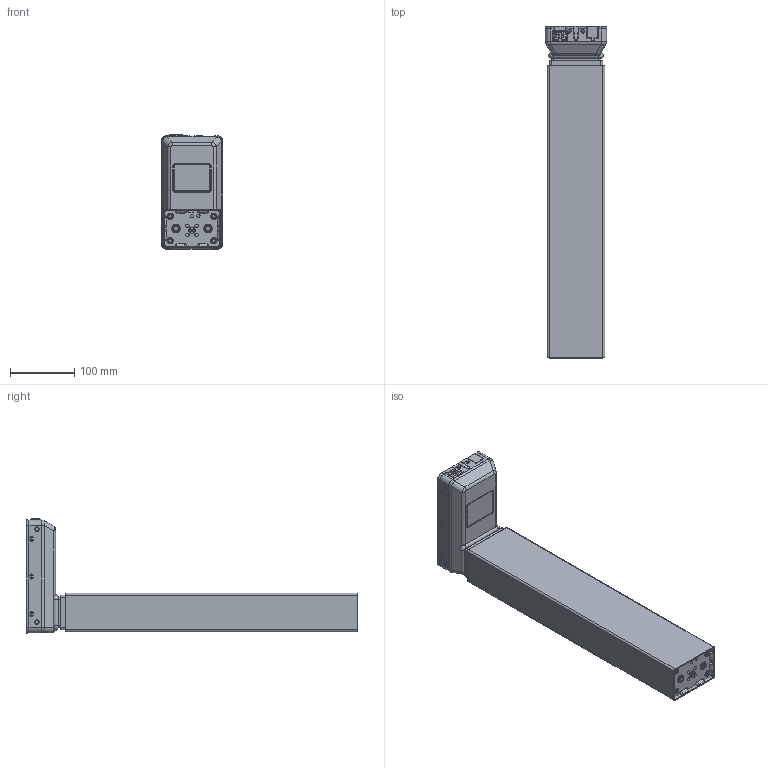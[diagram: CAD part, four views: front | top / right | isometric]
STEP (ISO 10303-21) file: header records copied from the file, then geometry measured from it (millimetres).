
FILE_DESCRIPTION((''),'2;1');
FILE_NAME('1064W8901_ASM_ASM','2020-12-21T13:32:22',('hga'),(''),'CREO PARAMETRIC BY PTC INC, 2019344','CREO PARAMETRIC BY PTC INC, 2019344','');
FILE_SCHEMA(('AUTOMOTIVE_DESIGN { 1 0 10303 214 1 1 1 1 }'));
Length unit declared in the file: millimetre
Products named in the file (8): 1064W8901-A-21-3_1_1; 1064W8901-A-21-1_1_1; 1064W8901-A-21-2_1_1; 1041W7906-A-00-1_1_1; 1064W8901-EX2_ASM_1_ASM; 4006; 4007; 1064W8901_ASM_ASM
Assembly tree (7 placements, depth 3):
  1064W8901_ASM_ASM
    1064W8901-EX2_ASM_1_ASM
      1064W8901-A-21-3_1_1
      1064W8901-A-21-1_1_1
      1064W8901-A-21-2_1_1
      1041W7906-A-00-1_1_1
    4006
    4007
Bounding box: 96.5 x 518 x 178.6 mm (x, y, z)
Volume: 6715163.5 mm3; surface area: 457918.1 mm2
Topology: 6 solids, 11 shells, 1061 faces, 2921 edges, 1905 vertices
Faces by surface type: plane 456, cylinder 417, torus 94, bspline 62, cone 18, sphere 14
Entity records: 41184 total; most frequent: CARTESIAN_POINT 12638, ORIENTED_EDGE 5810, DIRECTION 5611, EDGE_CURVE 2905, AXIS2_PLACEMENT_3D 2053, VERTEX_POINT 1905, VECTOR 1505, LINE 1505
